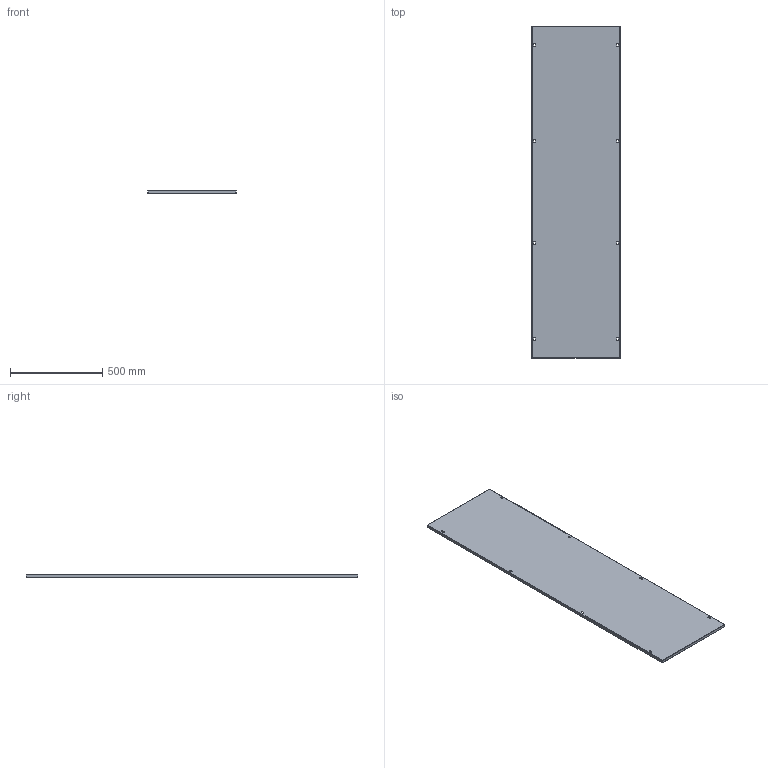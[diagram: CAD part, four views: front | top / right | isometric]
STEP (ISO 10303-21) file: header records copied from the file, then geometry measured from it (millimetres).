
FILE_DESCRIPTION (( 'STEP AP203' ), '1' );
FILE_NAME ('EUD3-060180.STEP', '2015-03-09T13:57:59', ( 'Admin' ), ( '' ), 'SwSTEP 2.0', 'SolidWorks 2014', '' );
FILE_SCHEMA (( 'CONFIG_CONTROL_DESIGN' ));
Length unit declared in the file: millimetre
Products named in the file (1): EUD3-060180
Bounding box: 480 x 1800 x 16 mm (x, y, z)
Volume: 1389646.8 mm3; surface area: 1860254.7 mm2
Topology: 1 solids, 1 shells, 51 faces, 136 edges, 88 vertices
Faces by surface type: plane 27, cylinder 24
Entity records: 1689 total; most frequent: CARTESIAN_POINT 306, ORIENTED_EDGE 272, DIRECTION 262, EDGE_CURVE 136, LINE 94, VECTOR 94, VERTEX_POINT 88, AXIS2_PLACEMENT_3D 84
